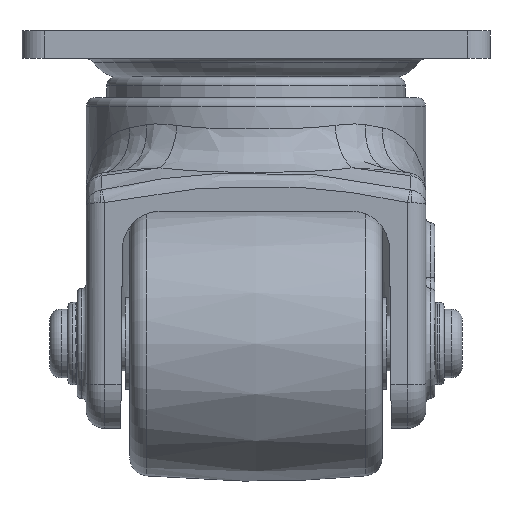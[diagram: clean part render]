
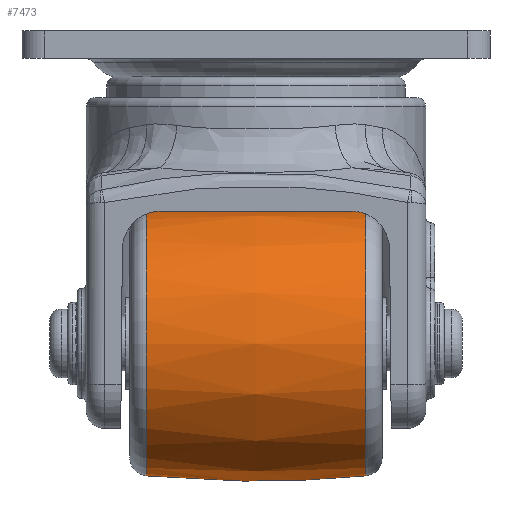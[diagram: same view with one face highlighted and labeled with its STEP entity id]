
A CAD part, left-side view. The second image highlights one B-rep face of the part: STEP entity #7473.
In plain terms, the highlighted free-form (B-spline) face has degree [2, 2] with [3, 9] control points.
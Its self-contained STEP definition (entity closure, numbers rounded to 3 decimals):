
#15=(
BOUNDED_CURVE()
B_SPLINE_CURVE(2,(#22804,#22805,#22806),.UNSPECIFIED.,.F.,.F.)
B_SPLINE_CURVE_WITH_KNOTS((3,3),(-0.096,0.096),
 .UNSPECIFIED.)
CURVE()
GEOMETRIC_REPRESENTATION_ITEM()
RATIONAL_B_SPLINE_CURVE((1.,0.995,1.))
REPRESENTATION_ITEM('')
);
#41=(
BOUNDED_SURFACE()
B_SPLINE_SURFACE(2,2,((#22776,#22777,#22778,#22779,#22780,#22781,#22782,
#22783,#22784),(#22785,#22786,#22787,#22788,#22789,#22790,#22791,#22792,
#22793),(#22794,#22795,#22796,#22797,#22798,#22799,#22800,#22801,#22802)),
 .UNSPECIFIED.,.F.,.T.,.F.)
B_SPLINE_SURFACE_WITH_KNOTS((3,3),(3,2,2,2,3),(-0.096,0.096),
(-3.142,-1.571,0.,1.571,3.142),
 .UNSPECIFIED.)
GEOMETRIC_REPRESENTATION_ITEM()
RATIONAL_B_SPLINE_SURFACE(((1.,0.707,1.,0.707,1.,
0.707,1.,0.707,1.),(0.995,0.704,
0.995,0.704,0.995,0.704,
0.995,0.704,0.995),(1.,0.707,
1.,0.707,1.,0.707,1.,0.707,1.)))
REPRESENTATION_ITEM('')
SURFACE()
);
#576=CIRCLE('',#8205,28.857);
#577=CIRCLE('',#8206,28.857);
#578=CIRCLE('',#8207,28.857);
#579=CIRCLE('',#8208,28.857);
#1571=FACE_OUTER_BOUND('',#2146,.T.);
#2146=EDGE_LOOP('',(#6799,#6800,#6801,#6802,#6803,#6804));
#3649=VERTEX_POINT('',#22772);
#3650=VERTEX_POINT('',#22773);
#3651=VERTEX_POINT('',#22803);
#3652=VERTEX_POINT('',#22807);
#4713=EDGE_CURVE('',#3649,#3650,#576,.T.);
#4714=EDGE_CURVE('',#3650,#3649,#577,.T.);
#4715=EDGE_CURVE('',#3650,#3651,#15,.T.);
#4716=EDGE_CURVE('',#3652,#3651,#578,.T.);
#4717=EDGE_CURVE('',#3651,#3652,#579,.T.);
#6799=ORIENTED_EDGE('',*,*,#4713,.T.);
#6800=ORIENTED_EDGE('',*,*,#4715,.T.);
#6801=ORIENTED_EDGE('',*,*,#4716,.F.);
#6802=ORIENTED_EDGE('',*,*,#4717,.F.);
#6803=ORIENTED_EDGE('',*,*,#4715,.F.);
#6804=ORIENTED_EDGE('',*,*,#4714,.T.);
#7473=ADVANCED_FACE('',(#1571),#41,.F.);
#8205=AXIS2_PLACEMENT_3D('',#22774,#10033,#10034);
#8206=AXIS2_PLACEMENT_3D('',#22775,#10035,#10036);
#8207=AXIS2_PLACEMENT_3D('',#22808,#10037,#10038);
#8208=AXIS2_PLACEMENT_3D('',#22809,#10039,#10040);
#10033=DIRECTION('center_axis',(0.,-1.,0.));
#10034=DIRECTION('ref_axis',(1.,0.,0.));
#10035=DIRECTION('center_axis',(0.,-1.,0.));
#10036=DIRECTION('ref_axis',(1.,0.,0.));
#10037=DIRECTION('center_axis',(0.,-1.,0.));
#10038=DIRECTION('ref_axis',(1.,0.,0.));
#10039=DIRECTION('center_axis',(0.,-1.,0.));
#10040=DIRECTION('ref_axis',(1.,0.,0.));
#22772=CARTESIAN_POINT('',(100.326,143.221,-17.05));
#22773=CARTESIAN_POINT('',(71.47,143.221,-45.907));
#22774=CARTESIAN_POINT('Origin',(71.47,143.221,-17.05));
#22775=CARTESIAN_POINT('Origin',(71.47,143.221,-17.05));
#22776=CARTESIAN_POINT('Ctrl Pts',(71.47,95.456,-45.907));
#22777=CARTESIAN_POINT('Ctrl Pts',(42.613,95.456,-45.907));
#22778=CARTESIAN_POINT('Ctrl Pts',(42.613,95.456,-17.05));
#22779=CARTESIAN_POINT('Ctrl Pts',(42.613,95.456,11.807));
#22780=CARTESIAN_POINT('Ctrl Pts',(71.47,95.456,11.807));
#22781=CARTESIAN_POINT('Ctrl Pts',(100.326,95.456,11.807));
#22782=CARTESIAN_POINT('Ctrl Pts',(100.326,95.456,-17.05));
#22783=CARTESIAN_POINT('Ctrl Pts',(100.326,95.456,-45.907));
#22784=CARTESIAN_POINT('Ctrl Pts',(71.47,95.456,-45.907));
#22785=CARTESIAN_POINT('Ctrl Pts',(71.47,119.339,-48.199));
#22786=CARTESIAN_POINT('Ctrl Pts',(40.321,119.339,-48.199));
#22787=CARTESIAN_POINT('Ctrl Pts',(40.321,119.339,-17.05));
#22788=CARTESIAN_POINT('Ctrl Pts',(40.321,119.339,14.099));
#22789=CARTESIAN_POINT('Ctrl Pts',(71.47,119.339,14.099));
#22790=CARTESIAN_POINT('Ctrl Pts',(102.618,119.339,14.099));
#22791=CARTESIAN_POINT('Ctrl Pts',(102.618,119.339,-17.05));
#22792=CARTESIAN_POINT('Ctrl Pts',(102.618,119.339,-48.199));
#22793=CARTESIAN_POINT('Ctrl Pts',(71.47,119.339,-48.199));
#22794=CARTESIAN_POINT('Ctrl Pts',(71.47,143.221,-45.907));
#22795=CARTESIAN_POINT('Ctrl Pts',(42.613,143.221,-45.907));
#22796=CARTESIAN_POINT('Ctrl Pts',(42.613,143.221,-17.05));
#22797=CARTESIAN_POINT('Ctrl Pts',(42.613,143.221,11.807));
#22798=CARTESIAN_POINT('Ctrl Pts',(71.47,143.221,11.807));
#22799=CARTESIAN_POINT('Ctrl Pts',(100.326,143.221,11.807));
#22800=CARTESIAN_POINT('Ctrl Pts',(100.326,143.221,-17.05));
#22801=CARTESIAN_POINT('Ctrl Pts',(100.326,143.221,-45.907));
#22802=CARTESIAN_POINT('Ctrl Pts',(71.47,143.221,-45.907));
#22803=CARTESIAN_POINT('',(71.47,95.456,-45.907));
#22804=CARTESIAN_POINT('Ctrl Pts',(71.47,143.221,-45.907));
#22805=CARTESIAN_POINT('Ctrl Pts',(71.47,119.339,-48.199));
#22806=CARTESIAN_POINT('Ctrl Pts',(71.47,95.456,-45.907));
#22807=CARTESIAN_POINT('',(100.326,95.456,-17.05));
#22808=CARTESIAN_POINT('Origin',(71.47,95.456,-17.05));
#22809=CARTESIAN_POINT('Origin',(71.47,95.456,-17.05));
